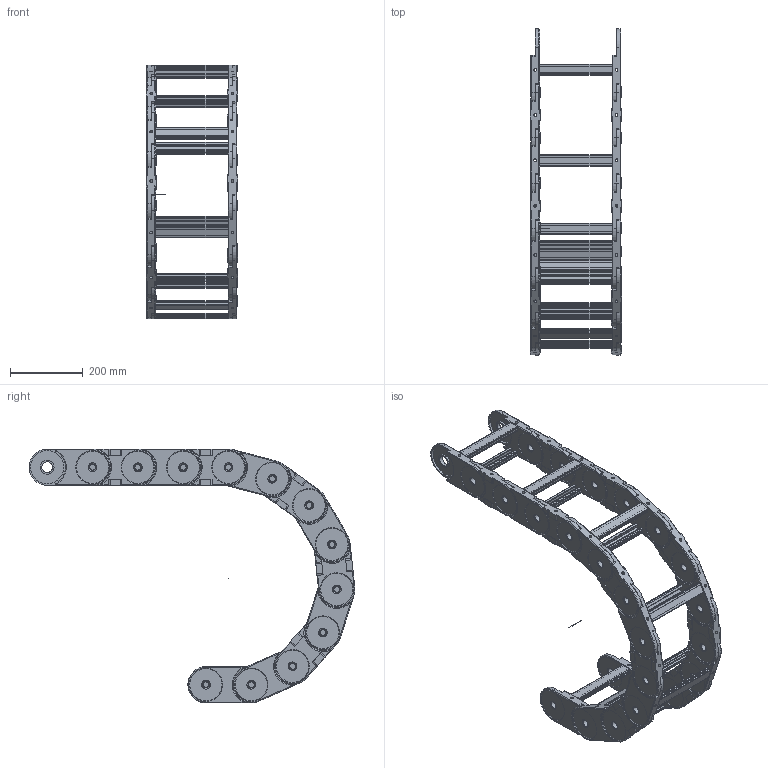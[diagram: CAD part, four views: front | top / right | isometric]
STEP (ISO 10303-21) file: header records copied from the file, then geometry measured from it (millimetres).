
FILE_DESCRIPTION((''),'2;1');
FILE_NAME('C:\Uebbing\TRACE PARTS\PLE\PLE 520\PLE 520 vereinfacht.stp','2013-06-04T08:52:28',('Uebbing'),(''),'Autodesk Inventor 10','Autodesk Inventor 10','');
FILE_SCHEMA(('AUTOMOTIVE_DESIGN { 1 0 10303 214 1 1 1 1 }'));
Length unit declared in the file: millimetre
Products named in the file (4): PLE 520 vereinfacht; PLE 520 Glied vereinfacht; Achse; PLE 520 Glied ohne Steg vereinfacht
Assembly tree (13 placements, depth 2):
  PLE 520 vereinfacht
    PLE 520 Glied vereinfacht  x7
    Achse
    PLE 520 Glied ohne Steg vereinfacht  x5
Bounding box: 252.5 x 898.81 x 700 mm (x, y, z)
Volume: 5610903.3 mm3; surface area: 1844407.7 mm2
Topology: 18 solids, 18 shells, 2259 faces, 5589 edges, 3544 vertices
Faces by surface type: plane 1166, cylinder 781, torus 144, bspline 120, cone 48
Full cylindrical faces by diameter (mm): 1 x1, 8 x24, 20 x24, 30 x24, 30.1 x24, 38 x48, 92 x48
Entity records: 12291 total; most frequent: CARTESIAN_POINT 2848, DIRECTION 2040, ORIENTED_EDGE 1812, EDGE_CURVE 906, AXIS2_PLACEMENT_3D 754, VERTEX_POINT 606, VECTOR 532, LINE 532
